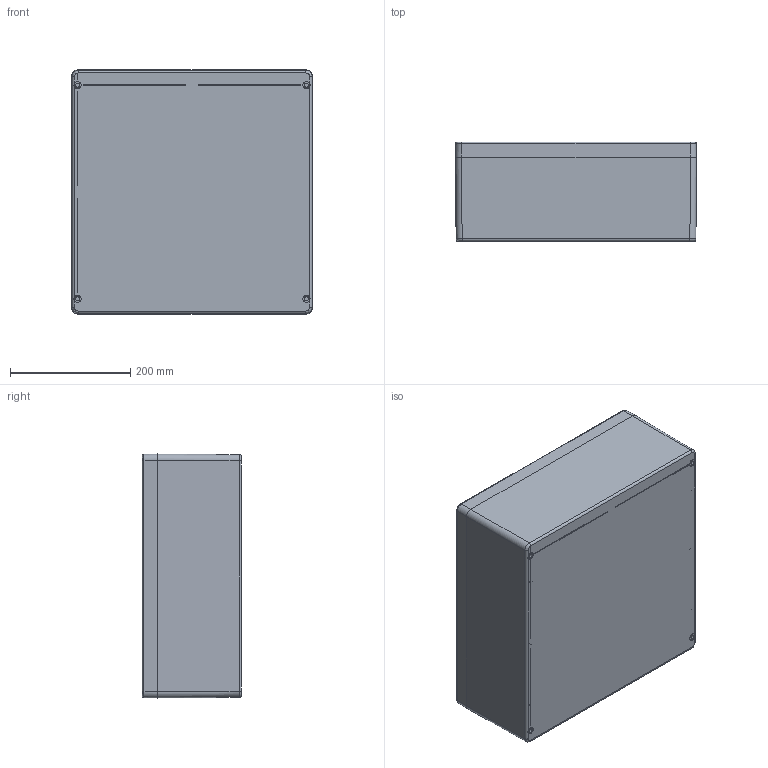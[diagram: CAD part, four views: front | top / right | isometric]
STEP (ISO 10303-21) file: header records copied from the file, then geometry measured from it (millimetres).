
FILE_DESCRIPTION((''),'2;1');
FILE_NAME('4460950000_ASM','2023-06-29T10:30:56',('Stephanie.Hoppe'),(''),'CREO PARAMETRIC BY PTC INC, 2022124','CREO PARAMETRIC BY PTC INC, 2022124','');
FILE_SCHEMA(('AUTOMOTIVE_DESIGN { 1 0 10303 214 1 1 1 1 }'));
Length unit declared in the file: millimetre
Products named in the file (10): 9331051000; 9502218000; 9502217000; 9331051000_ASM; 9332051000; 9614007200_DICHTUNG; 9614007200_ASM; 9262006000; 9261027000; 4460950000_ASM
Assembly tree (23 placements, depth 3):
  4460950000_ASM
    9331051000_ASM
      9331051000
      9502218000  x6
      9502217000  x4
    9614007200_ASM
      9332051000
      9614007200_DICHTUNG
    9262006000  x4
    9261027000  x4
Bounding box: 400.5 x 165.5 x 405.5 mm (x, y, z)
Volume: 3578235.5 mm3; surface area: 1224551.5 mm2
Topology: 21 solids, 35 shells, 2295 faces, 6161 edges, 3957 vertices
Faces by surface type: plane 1613, cone 384, cylinder 218, bspline 48, torus 32
Entity records: 44139 total; most frequent: CARTESIAN_POINT 9865, DIRECTION 4446, ORIENTED_EDGE 4134, PRESENTATION_STYLE_ASSIGNMENT 2650, STYLED_ITEM 2647, CURVE_STYLE 2306, EDGE_CURVE 2073, AXIS2_PLACEMENT_3D 1621
